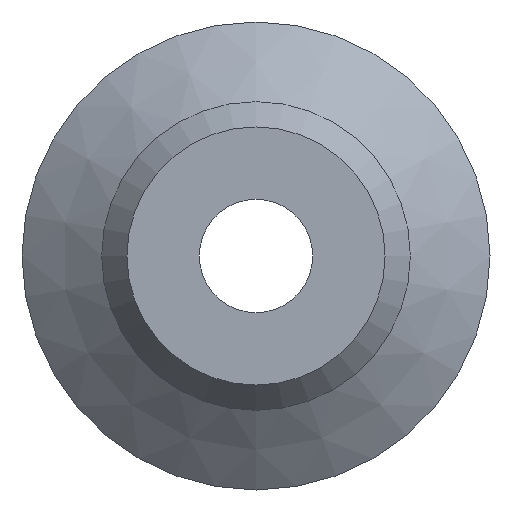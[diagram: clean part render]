
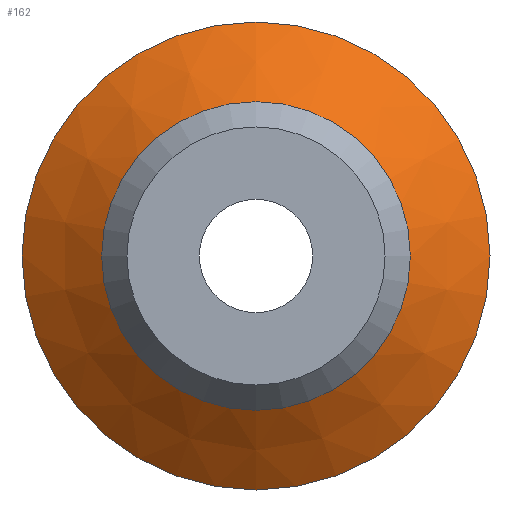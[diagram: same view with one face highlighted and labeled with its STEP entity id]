
A CAD part, front view. The second image highlights one B-rep face of the part: STEP entity #162.
In plain terms, the highlighted conical face has half-angle 52.4 degrees and reference radius 17.15 mm.
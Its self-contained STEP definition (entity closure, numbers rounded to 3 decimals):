
#10 = DIRECTION ( 'NONE',  ( 0., 1., 0. ) ) ;
#12 = DIRECTION ( 'NONE',  ( 0., 0., 1. ) ) ;
#14 = CARTESIAN_POINT ( 'NONE',  ( 80.585, -31.745, 26. ) ) ;
#20 = ORIENTED_EDGE ( 'NONE', *, *, #143, .T. ) ;
#27 = FACE_OUTER_BOUND ( 'NONE', #67, .T. ) ;
#43 = CARTESIAN_POINT ( 'NONE',  ( 80.585, -38.561, 0. ) ) ;
#50 = EDGE_LOOP ( 'NONE', ( #20 ) ) ;
#61 = DIRECTION ( 'NONE',  ( 0., 1., 0. ) ) ;
#67 = EDGE_LOOP ( 'NONE', ( #187 ) ) ;
#75 = CARTESIAN_POINT ( 'NONE',  ( 80.585, -31.745, 0. ) ) ;
#100 = AXIS2_PLACEMENT_3D ( 'NONE', #141, #61, #139 ) ;
#115 = CIRCLE ( 'NONE', #148, 17.15 ) ;
#120 = DIRECTION ( 'NONE',  ( 0., 0., 1. ) ) ;
#136 = EDGE_CURVE ( 'NONE', #156, #156, #160, .T. ) ;
#139 = DIRECTION ( 'NONE',  ( 0., 0., 1. ) ) ;
#141 = CARTESIAN_POINT ( 'NONE',  ( 80.585, -38.561, 0. ) ) ;
#143 = EDGE_CURVE ( 'NONE', #201, #201, #115, .T. ) ;
#148 = AXIS2_PLACEMENT_3D ( 'NONE', #43, #10, #120 ) ;
#153 = DIRECTION ( 'NONE',  ( 0., 1., 0. ) ) ;
#156 = VERTEX_POINT ( 'NONE', #14 ) ;
#160 = CIRCLE ( 'NONE', #225, 26. ) ;
#162 = ADVANCED_FACE ( 'NONE', ( #27, #238 ), #215, .T. ) ;
#187 = ORIENTED_EDGE ( 'NONE', *, *, #136, .F. ) ;
#201 = VERTEX_POINT ( 'NONE', #234 ) ;
#215 = CONICAL_SURFACE ( 'NONE', #100, 17.15, 0.915 ) ;
#225 = AXIS2_PLACEMENT_3D ( 'NONE', #75, #153, #12 ) ;
#234 = CARTESIAN_POINT ( 'NONE',  ( 80.585, -38.561, 17.15 ) ) ;
#238 = FACE_BOUND ( 'NONE', #50, .T. ) ;
